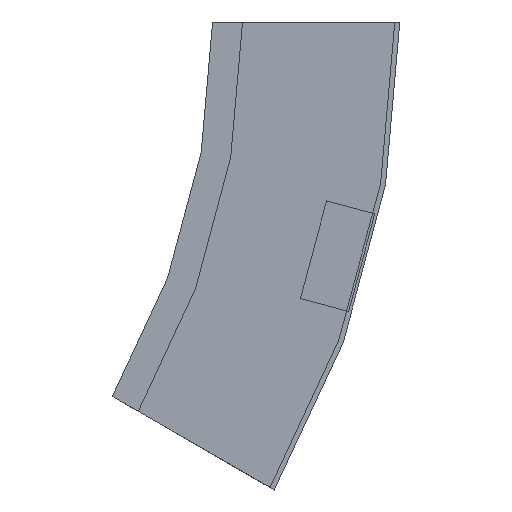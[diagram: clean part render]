
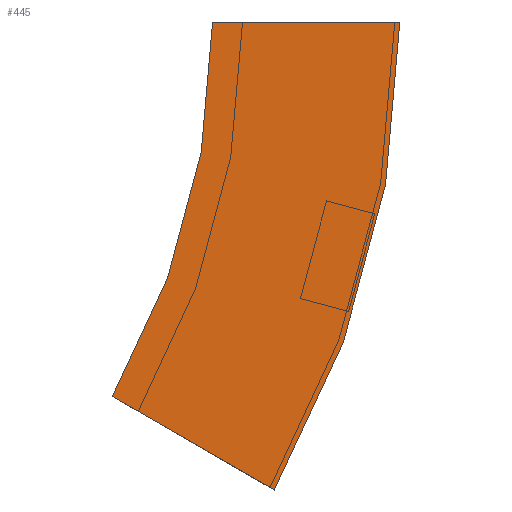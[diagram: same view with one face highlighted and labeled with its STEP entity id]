
A CAD part, left-side view. The second image highlights one B-rep face of the part: STEP entity #445.
In plain terms, the highlighted planar face has unit normal (-1, 0, 0) as drawn and (1, 0, 0) by its records, which use the part's own axes.
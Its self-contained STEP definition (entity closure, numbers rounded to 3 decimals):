
#4 = DIRECTION ( 'NONE',  ( 1., 0., 0. ) ) ;
#25 = DIRECTION ( 'NONE',  ( -1., 0., 0. ) ) ;
#26 = VERTEX_POINT ( 'NONE', #514 ) ;
#32 = DIRECTION ( 'NONE',  ( 0., 1., 0. ) ) ;
#47 = AXIS2_PLACEMENT_3D ( 'NONE', #495, #25, #457 ) ;
#60 = DIRECTION ( 'NONE',  ( 0., 0.866, 0.5 ) ) ;
#62 = DIRECTION ( 'NONE',  ( 0., -1., 0. ) ) ;
#78 = LINE ( 'NONE', #240, #358 ) ;
#176 = CARTESIAN_POINT ( 'NONE',  ( 0., 300., 0. ) ) ;
#198 = CARTESIAN_POINT ( 'NONE',  ( 0., -24.76, -187.5 ) ) ;
#222 = EDGE_CURVE ( 'NONE', #26, #449, #443, .T. ) ;
#240 = CARTESIAN_POINT ( 'NONE',  ( 0., -75., 0. ) ) ;
#245 = VERTEX_POINT ( 'NONE', #266 ) ;
#246 = EDGE_CURVE ( 'NONE', #245, #316, #472, .T. ) ;
#266 = CARTESIAN_POINT ( 'NONE',  ( 0., 0., 0. ) ) ;
#267 = VECTOR ( 'NONE', #60, 1000. ) ;
#274 = FACE_OUTER_BOUND ( 'NONE', #493, .T. ) ;
#311 = LINE ( 'NONE', #444, #267 ) ;
#316 = VERTEX_POINT ( 'NONE', #349 ) ;
#321 = AXIS2_PLACEMENT_3D ( 'NONE', #176, #4, #62 ) ;
#346 = EDGE_CURVE ( 'NONE', #449, #316, #311, .T. ) ;
#349 = CARTESIAN_POINT ( 'NONE',  ( 0., 40.192, -150. ) ) ;
#352 = ORIENTED_EDGE ( 'NONE', *, *, #222, .T. ) ;
#358 = VECTOR ( 'NONE', #32, 1000. ) ;
#372 = ORIENTED_EDGE ( 'NONE', *, *, #246, .F. ) ;
#386 = AXIS2_PLACEMENT_3D ( 'NONE', #475, #530, #528 ) ;
#396 = ORIENTED_EDGE ( 'NONE', *, *, #346, .T. ) ;
#402 = ORIENTED_EDGE ( 'NONE', *, *, #470, .F. ) ;
#443 = CIRCLE ( 'NONE', #386, 375. ) ;
#444 = CARTESIAN_POINT ( 'NONE',  ( 0., -24.76, -187.5 ) ) ;
#445 = ADVANCED_FACE ( 'NONE', ( #274 ), #503, .F. ) ;
#449 = VERTEX_POINT ( 'NONE', #198 ) ;
#457 = DIRECTION ( 'NONE',  ( 0., 0., 1. ) ) ;
#470 = EDGE_CURVE ( 'NONE', #26, #245, #78, .T. ) ;
#472 = CIRCLE ( 'NONE', #321, 300. ) ;
#475 = CARTESIAN_POINT ( 'NONE',  ( 0., 300., 0. ) ) ;
#493 = EDGE_LOOP ( 'NONE', ( #372, #402, #352, #396 ) ) ;
#495 = CARTESIAN_POINT ( 'NONE',  ( 0., -75., 0. ) ) ;
#503 = PLANE ( 'NONE',  #47 ) ;
#514 = CARTESIAN_POINT ( 'NONE',  ( 0., -75., 0. ) ) ;
#528 = DIRECTION ( 'NONE',  ( 0., -1., 0. ) ) ;
#530 = DIRECTION ( 'NONE',  ( 1., 0., 0. ) ) ;
